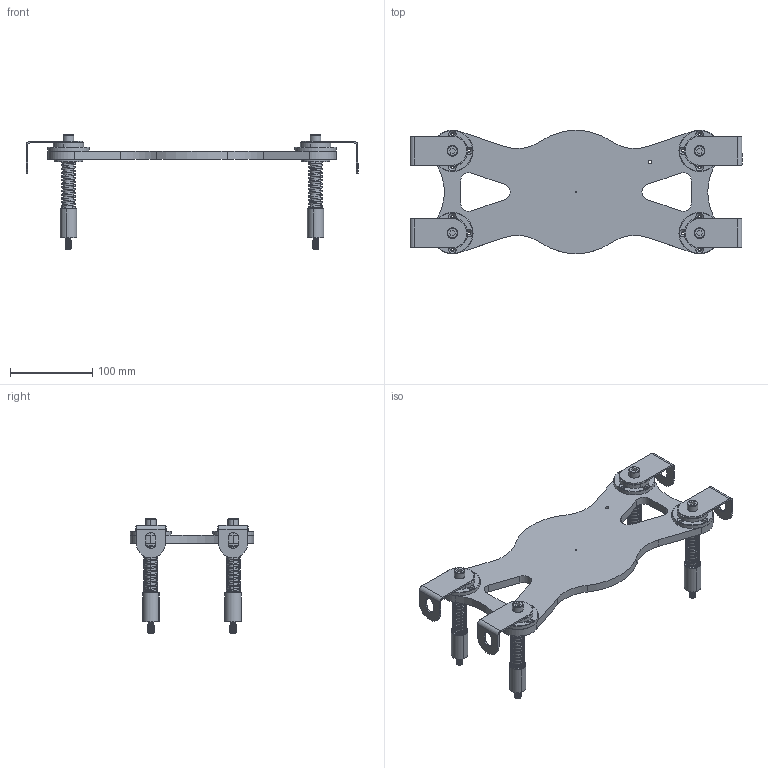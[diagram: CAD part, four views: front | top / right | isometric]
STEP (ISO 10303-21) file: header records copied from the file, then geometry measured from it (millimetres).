
FILE_DESCRIPTION (( 'STEP AP203' ), '1' );
FILE_NAME ('3-9-23966.STEP', '2018-06-05T08:36:12', ( '' ), ( '' ), 'SwSTEP 2.0', 'SolidWorks 2018', '' );
FILE_SCHEMA (( 'CONFIG_CONTROL_DESIGN' ));
Products named in the file (1): 3-9-23966
Bounding box: 403 x 150 x 139 mm (x, y, z)
Surface area: 194750.4 mm2 (no closed solid volume)
Topology: 0 solids, 45 shells, 626 faces, 1710 edges, 1142 vertices
Faces by surface type: cylinder 314, plane 148, cone 80, bspline 44, torus 40
Entity records: 52211 total; most frequent: CARTESIAN_POINT 36505, DIRECTION 3370, ORIENTED_EDGE 3070, EDGE_CURVE 1710, AXIS2_PLACEMENT_3D 1359, VERTEX_POINT 1142, CIRCLE 776, EDGE_LOOP 762
